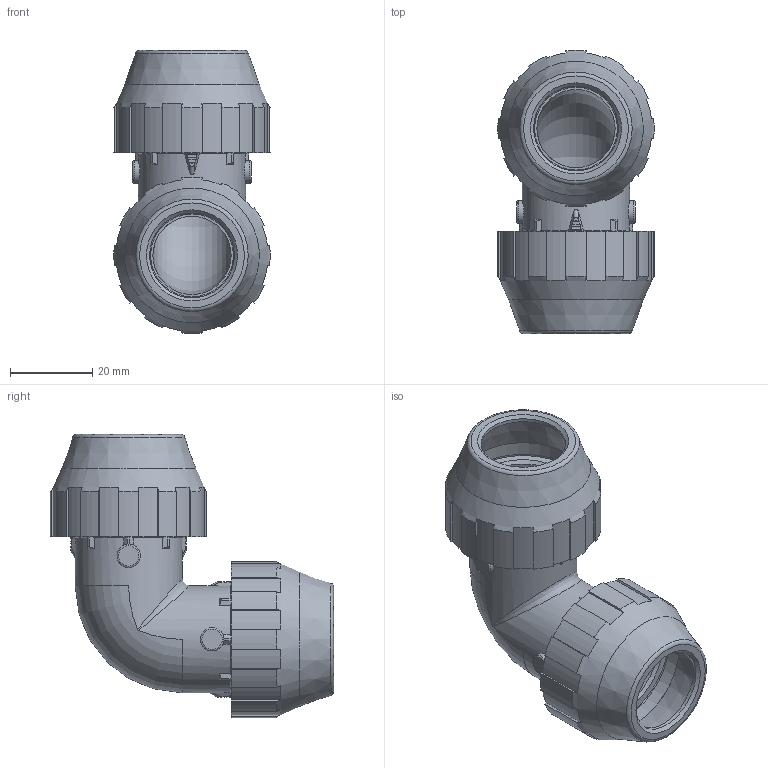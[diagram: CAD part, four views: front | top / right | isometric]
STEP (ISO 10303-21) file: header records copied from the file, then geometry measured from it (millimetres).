
FILE_DESCRIPTION( ( 'STEP AP214' ), '1' );
FILE_NAME( ' ', ' ', ( ' ' ), ( ' ' ), 'PSStep 11.0', 'VISI 17.0', ' ' );
FILE_SCHEMA( ( 'AUTOMOTIVE_DESIGN { 1 0 10303 214 1 1 1 1 }' ) );
Length unit declared in the file: millimetre
Products named in the file (9): 1; 2; 3; 4; 5; 6; 7; 8; 9
Bounding box: 37.96 x 68.73 x 68.73 mm (x, y, z)
Volume: 29888.3 mm3; surface area: 29756.1 mm2
Topology: 9 solids, 9 shells, 308 faces, 833 edges, 554 vertices
Faces by surface type: plane 152, cylinder 124, torus 17, cone 14, bspline 1
Full cylindrical faces by diameter (mm): 5.633 x4, 19 x2, 20.6 x4, 24.9 x2, 26 x2, 29.88 x2, 31 x2, 33 x4
Entity records: 12698 total; most frequent: CARTESIAN_POINT 2449, DIRECTION 1681, ORIENTED_EDGE 1522, EDGE_CURVE 761, AXIS2_PLACEMENT_3D 668, VERTEX_POINT 532, EDGE_LOOP 379, LINE 345
